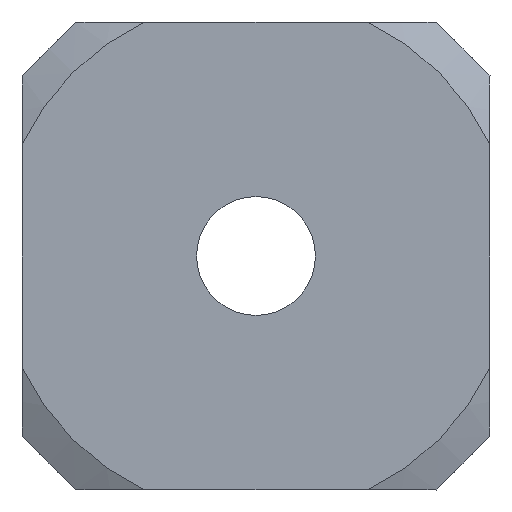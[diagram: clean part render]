
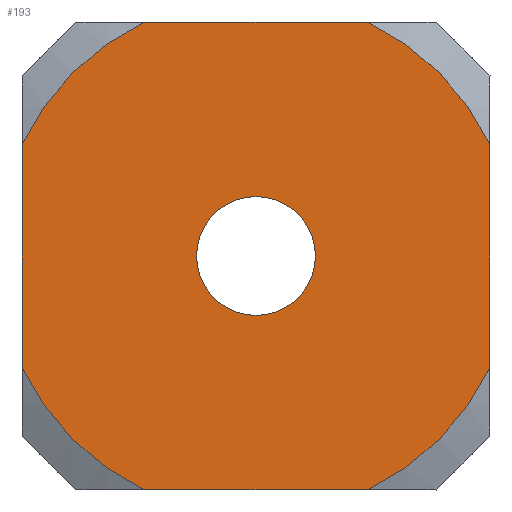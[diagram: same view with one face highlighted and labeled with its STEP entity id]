
A CAD part, front view. The second image highlights one B-rep face of the part: STEP entity #193.
In plain terms, the highlighted planar face has unit normal (0, -1, 0).
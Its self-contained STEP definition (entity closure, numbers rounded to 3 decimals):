
#2 = EDGE_CURVE ( 'NONE', #447, #459, #602, .T. ) ;
#10 = CARTESIAN_POINT ( 'NONE',  ( -6.5, 0., 0. ) ) ;
#15 = EDGE_CURVE ( 'NONE', #264, #592, #175, .T. ) ;
#17 = ORIENTED_EDGE ( 'NONE', *, *, #277, .T. ) ;
#22 = LINE ( 'NONE', #254, #511 ) ;
#28 = DIRECTION ( 'NONE',  ( 0., -1., 0. ) ) ;
#32 = ORIENTED_EDGE ( 'NONE', *, *, #170, .T. ) ;
#41 = VECTOR ( 'NONE', #595, 1000. ) ;
#44 = CARTESIAN_POINT ( 'NONE',  ( 0., 0., -6.5 ) ) ;
#67 = EDGE_CURVE ( 'NONE', #592, #447, #132, .T. ) ;
#73 = DIRECTION ( 'NONE',  ( 0., 0., 1. ) ) ;
#86 = DIRECTION ( 'NONE',  ( 0., 0., 1. ) ) ;
#89 = CARTESIAN_POINT ( 'NONE',  ( 0., 0., 0. ) ) ;
#98 = FACE_BOUND ( 'NONE', #564, .T. ) ;
#103 = AXIS2_PLACEMENT_3D ( 'NONE', #263, #28, #73 ) ;
#117 = CIRCLE ( 'NONE', #619, 1.65 ) ;
#124 = EDGE_CURVE ( 'NONE', #232, #652, #736, .T. ) ;
#132 = CIRCLE ( 'NONE', #493, 7.2 ) ;
#135 = AXIS2_PLACEMENT_3D ( 'NONE', #89, #385, #697 ) ;
#147 = CIRCLE ( 'NONE', #135, 7.2 ) ;
#150 = ORIENTED_EDGE ( 'NONE', *, *, #480, .T. ) ;
#163 = PLANE ( 'NONE',  #438 ) ;
#170 = EDGE_CURVE ( 'NONE', #652, #570, #586, .T. ) ;
#174 = VECTOR ( 'NONE', #606, 1000. ) ;
#175 = LINE ( 'NONE', #357, #174 ) ;
#183 = EDGE_LOOP ( 'NONE', ( #484, #17, #638, #32, #426, #436, #512, #339 ) ) ;
#193 = ADVANCED_FACE ( 'NONE', ( #594, #98 ), #163, .T. ) ;
#202 = DIRECTION ( 'NONE',  ( 0., 1., 0. ) ) ;
#211 = CARTESIAN_POINT ( 'NONE',  ( 6.5, 0., 3.097 ) ) ;
#213 = CARTESIAN_POINT ( 'NONE',  ( -3.097, 0., 6.5 ) ) ;
#224 = EDGE_CURVE ( 'NONE', #494, #227, #117, .T. ) ;
#227 = VERTEX_POINT ( 'NONE', #327 ) ;
#230 = CARTESIAN_POINT ( 'NONE',  ( 3.097, 0., -6.5 ) ) ;
#232 = VERTEX_POINT ( 'NONE', #255 ) ;
#254 = CARTESIAN_POINT ( 'NONE',  ( 6.5, 0., 0. ) ) ;
#255 = CARTESIAN_POINT ( 'NONE',  ( -3.097, 0., -6.5 ) ) ;
#263 = CARTESIAN_POINT ( 'NONE',  ( 0., 0., 0. ) ) ;
#264 = VERTEX_POINT ( 'NONE', #666 ) ;
#266 = DIRECTION ( 'NONE',  ( 1., 0., 0. ) ) ;
#269 = DIRECTION ( 'NONE',  ( 0., 0., 1. ) ) ;
#270 = VERTEX_POINT ( 'NONE', #211 ) ;
#277 = EDGE_CURVE ( 'NONE', #459, #232, #415, .T. ) ;
#289 = CARTESIAN_POINT ( 'NONE',  ( 0., 0., 0. ) ) ;
#298 = DIRECTION ( 'NONE',  ( 0., -1., 0. ) ) ;
#320 = CARTESIAN_POINT ( 'NONE',  ( 0., 0., 1.65 ) ) ;
#327 = CARTESIAN_POINT ( 'NONE',  ( 0., 0., -1.65 ) ) ;
#339 = ORIENTED_EDGE ( 'NONE', *, *, #67, .T. ) ;
#341 = CARTESIAN_POINT ( 'NONE',  ( -6.5, 0., 3.097 ) ) ;
#345 = AXIS2_PLACEMENT_3D ( 'NONE', #662, #381, #626 ) ;
#355 = CIRCLE ( 'NONE', #653, 1.65 ) ;
#357 = CARTESIAN_POINT ( 'NONE',  ( 0., 0., 6.5 ) ) ;
#362 = DIRECTION ( 'NONE',  ( 0., -1., 0. ) ) ;
#381 = DIRECTION ( 'NONE',  ( 0., -1., 0. ) ) ;
#384 = ORIENTED_EDGE ( 'NONE', *, *, #224, .T. ) ;
#385 = DIRECTION ( 'NONE',  ( 0., -1., 0. ) ) ;
#391 = DIRECTION ( 'NONE',  ( -1., 0., 0. ) ) ;
#415 = CIRCLE ( 'NONE', #103, 7.2 ) ;
#426 = ORIENTED_EDGE ( 'NONE', *, *, #552, .T. ) ;
#436 = ORIENTED_EDGE ( 'NONE', *, *, #590, .T. ) ;
#438 = AXIS2_PLACEMENT_3D ( 'NONE', #289, #298, #523 ) ;
#447 = VERTEX_POINT ( 'NONE', #341 ) ;
#459 = VERTEX_POINT ( 'NONE', #758 ) ;
#480 = EDGE_CURVE ( 'NONE', #227, #494, #355, .T. ) ;
#484 = ORIENTED_EDGE ( 'NONE', *, *, #2, .T. ) ;
#491 = DIRECTION ( 'NONE',  ( 0., 0., 1. ) ) ;
#492 = CARTESIAN_POINT ( 'NONE',  ( 0., 0., 0. ) ) ;
#493 = AXIS2_PLACEMENT_3D ( 'NONE', #746, #362, #391 ) ;
#494 = VERTEX_POINT ( 'NONE', #320 ) ;
#511 = VECTOR ( 'NONE', #491, 1000. ) ;
#512 = ORIENTED_EDGE ( 'NONE', *, *, #15, .T. ) ;
#523 = DIRECTION ( 'NONE',  ( 0., 0., -1. ) ) ;
#552 = EDGE_CURVE ( 'NONE', #570, #270, #22, .T. ) ;
#561 = CARTESIAN_POINT ( 'NONE',  ( 0., 0., 0. ) ) ;
#563 = CARTESIAN_POINT ( 'NONE',  ( 6.5, 0., -3.097 ) ) ;
#564 = EDGE_LOOP ( 'NONE', ( #384, #150 ) ) ;
#570 = VERTEX_POINT ( 'NONE', #563 ) ;
#586 = CIRCLE ( 'NONE', #345, 7.2 ) ;
#590 = EDGE_CURVE ( 'NONE', #270, #264, #147, .T. ) ;
#592 = VERTEX_POINT ( 'NONE', #213 ) ;
#594 = FACE_OUTER_BOUND ( 'NONE', #183, .T. ) ;
#595 = DIRECTION ( 'NONE',  ( 0., 0., -1. ) ) ;
#602 = LINE ( 'NONE', #10, #41 ) ;
#606 = DIRECTION ( 'NONE',  ( -1., 0., 0. ) ) ;
#619 = AXIS2_PLACEMENT_3D ( 'NONE', #492, #202, #269 ) ;
#626 = DIRECTION ( 'NONE',  ( 0., 0., 1. ) ) ;
#638 = ORIENTED_EDGE ( 'NONE', *, *, #124, .T. ) ;
#652 = VERTEX_POINT ( 'NONE', #230 ) ;
#653 = AXIS2_PLACEMENT_3D ( 'NONE', #561, #734, #86 ) ;
#662 = CARTESIAN_POINT ( 'NONE',  ( 0., 0., 0. ) ) ;
#665 = VECTOR ( 'NONE', #266, 1000. ) ;
#666 = CARTESIAN_POINT ( 'NONE',  ( 3.097, 0., 6.5 ) ) ;
#697 = DIRECTION ( 'NONE',  ( 0., 0., 1. ) ) ;
#734 = DIRECTION ( 'NONE',  ( 0., 1., 0. ) ) ;
#736 = LINE ( 'NONE', #44, #665 ) ;
#746 = CARTESIAN_POINT ( 'NONE',  ( 0., 0., 0. ) ) ;
#758 = CARTESIAN_POINT ( 'NONE',  ( -6.5, 0., -3.097 ) ) ;
